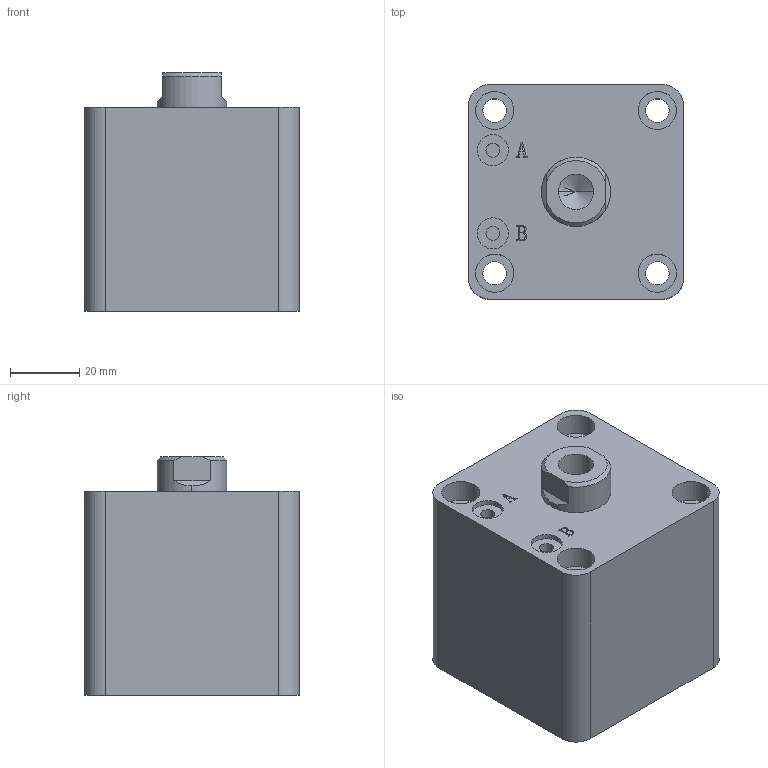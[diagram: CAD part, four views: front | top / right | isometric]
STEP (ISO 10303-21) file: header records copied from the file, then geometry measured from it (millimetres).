
FILE_DESCRIPTION (( 'STEP AP203' ), '1' );
FILE_NAME ('HTB-SDMA32-5N.STEP', '2019-10-07T11:37:23', ( '微软用户' ), ( '微软中国' ), 'SwSTEP 2.0', 'SolidWorks 2012', '' );
FILE_SCHEMA (( 'CONFIG_CONTROL_DESIGN' ));
Length unit declared in the file: millimetre
Products named in the file (3): HTB-SDMA32-5N活塞杆; HTB-SDMA32-5掛极; HTB-SDMA32-5N
Assembly tree (2 placements, depth 2):
  HTB-SDMA32-5N
    HTB-SDMA32-5掛极
    HTB-SDMA32-5N活塞杆
Bounding box: 62 x 62 x 69 mm (x, y, z)
Volume: 211908.2 mm3; surface area: 38874.1 mm2
Topology: 2 solids, 2 shells, 137 faces, 331 edges, 217 vertices
Faces by surface type: plane 65, cylinder 46, bspline 16, torus 6, cone 4
Entity records: 5070 total; most frequent: CARTESIAN_POINT 1576, ORIENTED_EDGE 658, DIRECTION 647, EDGE_CURVE 329, AXIS2_PLACEMENT_3D 232, VERTEX_POINT 217, VECTOR 183, LINE 183
